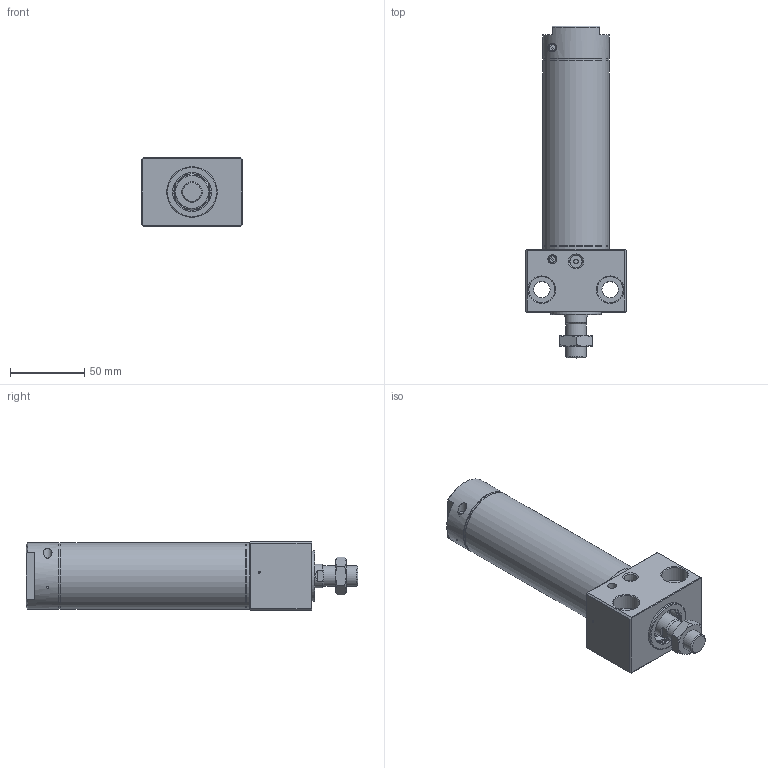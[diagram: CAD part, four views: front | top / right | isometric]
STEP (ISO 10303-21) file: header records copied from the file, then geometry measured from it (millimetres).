
FILE_DESCRIPTION((''),'2;1');
FILE_NAME('I:\3D電子目錄\氣缸\DBS\DBS\DBS40-C\DBS40x75-C.stp','2007-10-08T10:54:18',('Administrator'),(''),'Autodesk Inventor 11','Autodesk Inventor 11','');
FILE_SCHEMA(('AUTOMOTIVE_DESIGN { 1 0 10303 214 1 1 1 1 }'));
Length unit declared in the file: millimetre
Products named in the file (1): DBS40x75-C
Bounding box: 68 x 223.6 x 46 mm (x, y, z)
Volume: 220761.1 mm3; surface area: 76720 mm2
Topology: 7 solids, 7 shells, 207 faces, 421 edges, 258 vertices
Faces by surface type: plane 92, cone 50, cylinder 46, bspline 16, torus 3
Full cylindrical faces by diameter (mm): 1.2 x1, 1.9 x2, 3 x2, 3.3 x1, 4.6 x2, 5 x2, 6 x2, 10.5 x1, 12 x1, 13 x1, 14 x2, 16 x1, 16.5 x1, 18 x1, 21 x2, 24 x3, 26 x2, 27.5 x1, 28 x2, 34 x1, 38 x2, 38.5 x2, 40 x1, 42.2 x6, 45 x4
Entity records: 5306 total; most frequent: CARTESIAN_POINT 1420, DIRECTION 818, ORIENTED_EDGE 630, AXIS2_PLACEMENT_3D 361, EDGE_LOOP 350, EDGE_CURVE 315, VERTEX_POINT 243, FACE_OUTER_BOUND 207
